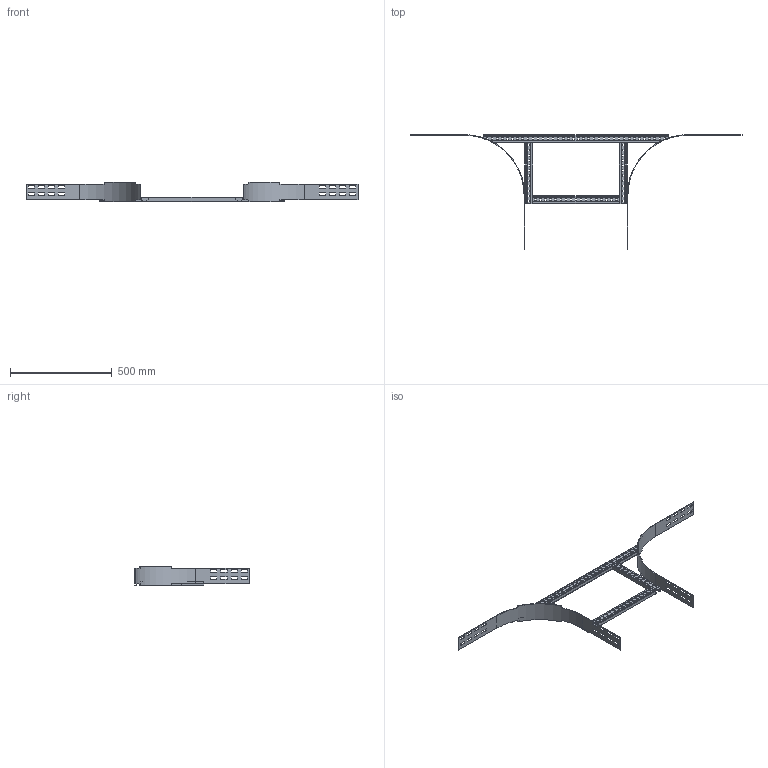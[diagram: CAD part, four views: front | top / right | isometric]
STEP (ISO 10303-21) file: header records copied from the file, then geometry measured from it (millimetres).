
FILE_DESCRIPTION(('Creo Elements/Direct Modeling STEP Export'),'2;1');
FILE_NAME('//pserver/office/EK/ME10-3D/3D-output/WPBP10-50-30.stp','2020-03-13T 7:20:05',(''),(''),'PTC Creo Elements/Direct Modeling STEP processor for AP214 (Solid Model)','PTC Creo Elements/Direct Modeling 19.0C 15-Aug-2015 (C) Parametric Technology GmbH','');
FILE_SCHEMA(('AUTOMOTIVE_DESIGN { 1 0 10303 214 1 1 1 1 }'));
Length unit declared in the file: millimetre
Products named in the file (5): WPAASP1_500-300; WPAASP2-300; WPAAIG_100-300; WPKS50; WPBP10-50-30-HDG
Assembly tree (6 placements, depth 2):
  WPBP10-50-30-HDG
    WPAASP2-300  x2
    WPKS50
    WPAAIG_100-300  x2
    WPAASP1_500-300
Bounding box: 1635 x 565 x 95 mm (x, y, z)
Volume: 724318.8 mm3; surface area: 703233.5 mm2
Topology: 6 solids, 6 shells, 644 faces, 1890 edges, 1260 vertices
Faces by surface type: plane 416, cylinder 228
Entity records: 16045 total; most frequent: CARTESIAN_POINT 2760, ORIENTED_EDGE 2760, DIRECTION 2684, EDGE_CURVE 1380, VECTOR 996, LINE 996, VERTEX_POINT 920, AXIS2_PLACEMENT_3D 844
